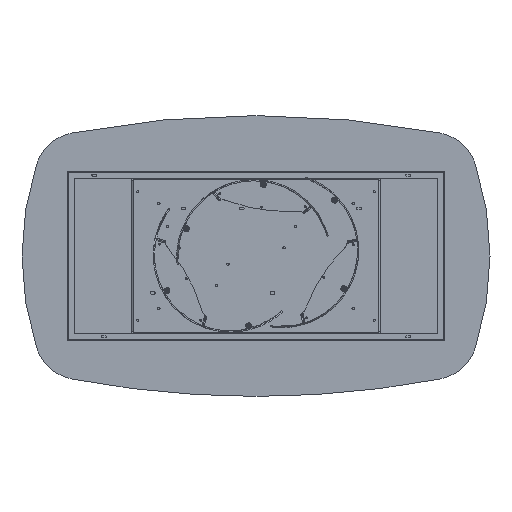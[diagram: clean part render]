
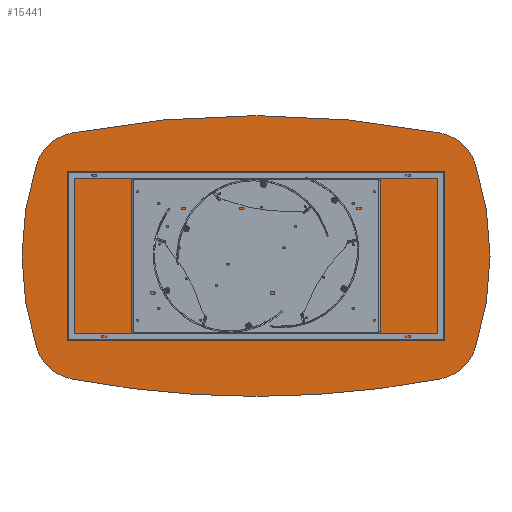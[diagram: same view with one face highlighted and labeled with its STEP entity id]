
A CAD part, front view. The second image highlights one B-rep face of the part: STEP entity #15441.
In plain terms, the highlighted planar face has unit normal (0, -1, 0).
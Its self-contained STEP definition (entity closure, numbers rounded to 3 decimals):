
#71 = DIRECTION ( 'NONE',  ( 0., 1., 0. ) ) ;
#188 = CARTESIAN_POINT ( 'NONE',  ( 0., 0., 3600. ) ) ;
#315 = VERTEX_POINT ( 'NONE', #11842 ) ;
#351 = CARTESIAN_POINT ( 'NONE',  ( -937.639, 0., -391.646 ) ) ;
#872 = DIRECTION ( 'NONE',  ( 0., 0., 1. ) ) ;
#941 = AXIS2_PLACEMENT_3D ( 'NONE', #16911, #8880, #872 ) ;
#1209 = EDGE_CURVE ( 'NONE', #21073, #4881, #2676, .T. ) ;
#1221 = FACE_OUTER_BOUND ( 'NONE', #14311, .T. ) ;
#1800 = EDGE_CURVE ( 'NONE', #5351, #4881, #7776, .T. ) ;
#2265 = ORIENTED_EDGE ( 'NONE', *, *, #2632, .F. ) ;
#2632 = EDGE_CURVE ( 'NONE', #5772, #17766, #19513, .T. ) ;
#2676 = CIRCLE ( 'NONE', #9228, 4200. ) ;
#2783 = AXIS2_PLACEMENT_3D ( 'NONE', #17017, #8777, #7149 ) ;
#2845 = CARTESIAN_POINT ( 'NONE',  ( -130.5, 0., 1800. ) ) ;
#2936 = DIRECTION ( 'NONE',  ( 0., -1., 0. ) ) ;
#3137 = AXIS2_PLACEMENT_3D ( 'NONE', #188, #71, #19384 ) ;
#3701 = DIRECTION ( 'NONE',  ( 0., 0., 1. ) ) ;
#3910 = CIRCLE ( 'NONE', #13943, 1261. ) ;
#4881 = VERTEX_POINT ( 'NONE', #20204 ) ;
#5122 = CARTESIAN_POINT ( 'NONE',  ( -784.906, 0., -526.006 ) ) ;
#5351 = VERTEX_POINT ( 'NONE', #10974 ) ;
#5436 = ORIENTED_EDGE ( 'NONE', *, *, #18332, .T. ) ;
#5541 = CIRCLE ( 'NONE', #3137, 4200. ) ;
#5706 = DIRECTION ( 'NONE',  ( 0., 1., 0. ) ) ;
#5717 = CARTESIAN_POINT ( 'NONE',  ( -747.529, 0., -329.529 ) ) ;
#5743 = CARTESIAN_POINT ( 'NONE',  ( 937.639, 0., -391.646 ) ) ;
#5772 = VERTEX_POINT ( 'NONE', #351 ) ;
#5862 = CARTESIAN_POINT ( 'NONE',  ( -937.639, 0., 391.646 ) ) ;
#5892 = VERTEX_POINT ( 'NONE', #5743 ) ;
#6501 = DIRECTION ( 'NONE',  ( 0., 1., 0. ) ) ;
#7113 = VERTEX_POINT ( 'NONE', #5122 ) ;
#7141 = EDGE_CURVE ( 'NONE', #21073, #17766, #20890, .T. ) ;
#7149 = DIRECTION ( 'NONE',  ( 0., 0., 1. ) ) ;
#7216 = CARTESIAN_POINT ( 'NONE',  ( 261., 0., 0. ) ) ;
#7694 = DIRECTION ( 'NONE',  ( 0., 0., 1. ) ) ;
#7776 = CIRCLE ( 'NONE', #12969, 200. ) ;
#7934 = CARTESIAN_POINT ( 'NONE',  ( -784.906, 0., 526.006 ) ) ;
#8029 = ORIENTED_EDGE ( 'NONE', *, *, #1209, .F. ) ;
#8582 = DIRECTION ( 'NONE',  ( 0., -1., 0. ) ) ;
#8777 = DIRECTION ( 'NONE',  ( 0., -1., 0. ) ) ;
#8880 = DIRECTION ( 'NONE',  ( 0., 1., 0. ) ) ;
#9116 = EDGE_CURVE ( 'NONE', #315, #7113, #5541, .T. ) ;
#9207 = AXIS2_PLACEMENT_3D ( 'NONE', #2845, #16269, #9641 ) ;
#9228 = AXIS2_PLACEMENT_3D ( 'NONE', #9841, #6501, #19754 ) ;
#9265 = DIRECTION ( 'NONE',  ( 0., 0., 1. ) ) ;
#9274 = DIRECTION ( 'NONE',  ( 0., -1., 0. ) ) ;
#9641 = DIRECTION ( 'NONE',  ( 0., 0., 1. ) ) ;
#9642 = ORIENTED_EDGE ( 'NONE', *, *, #12416, .F. ) ;
#9751 = PLANE ( 'NONE',  #9207 ) ;
#9841 = CARTESIAN_POINT ( 'NONE',  ( 0., 0., -3600. ) ) ;
#10137 = AXIS2_PLACEMENT_3D ( 'NONE', #7216, #5706, #9265 ) ;
#10197 = ORIENTED_EDGE ( 'NONE', *, *, #1800, .T. ) ;
#10792 = ORIENTED_EDGE ( 'NONE', *, *, #16651, .T. ) ;
#10974 = CARTESIAN_POINT ( 'NONE',  ( 937.639, 0., 391.646 ) ) ;
#11842 = CARTESIAN_POINT ( 'NONE',  ( 0., 0., -600. ) ) ;
#12092 = ORIENTED_EDGE ( 'NONE', *, *, #9116, .F. ) ;
#12322 = DIRECTION ( 'NONE',  ( 0., 0., 1. ) ) ;
#12416 = EDGE_CURVE ( 'NONE', #5351, #5892, #3910, .T. ) ;
#12969 = AXIS2_PLACEMENT_3D ( 'NONE', #21064, #2936, #7694 ) ;
#13124 = ORIENTED_EDGE ( 'NONE', *, *, #14430, .F. ) ;
#13672 = DIRECTION ( 'NONE',  ( 0., 0., 1. ) ) ;
#13943 = AXIS2_PLACEMENT_3D ( 'NONE', #20645, #15406, #13672 ) ;
#14170 = ORIENTED_EDGE ( 'NONE', *, *, #7141, .T. ) ;
#14311 = EDGE_LOOP ( 'NONE', ( #8029, #14170, #2265, #5436, #12092, #13124, #10792, #9642, #10197 ) ) ;
#14430 = EDGE_CURVE ( 'NONE', #15854, #315, #19645, .T. ) ;
#15236 = CIRCLE ( 'NONE', #18351, 200. ) ;
#15406 = DIRECTION ( 'NONE',  ( 0., 1., 0. ) ) ;
#15441 = ADVANCED_FACE ( 'NONE', ( #1221 ), #9751, .F. ) ;
#15854 = VERTEX_POINT ( 'NONE', #16464 ) ;
#16269 = DIRECTION ( 'NONE',  ( 0., 1., 0. ) ) ;
#16464 = CARTESIAN_POINT ( 'NONE',  ( 784.906, 0., -526.006 ) ) ;
#16651 = EDGE_CURVE ( 'NONE', #15854, #5892, #17301, .T. ) ;
#16911 = CARTESIAN_POINT ( 'NONE',  ( 0., 0., 3600. ) ) ;
#17017 = CARTESIAN_POINT ( 'NONE',  ( 747.529, 0., -329.529 ) ) ;
#17301 = CIRCLE ( 'NONE', #2783, 200. ) ;
#17727 = AXIS2_PLACEMENT_3D ( 'NONE', #18668, #8582, #3701 ) ;
#17766 = VERTEX_POINT ( 'NONE', #5862 ) ;
#18332 = EDGE_CURVE ( 'NONE', #5772, #7113, #15236, .T. ) ;
#18351 = AXIS2_PLACEMENT_3D ( 'NONE', #5717, #9274, #12322 ) ;
#18668 = CARTESIAN_POINT ( 'NONE',  ( -747.529, 0., 329.529 ) ) ;
#19384 = DIRECTION ( 'NONE',  ( 0., 0., 1. ) ) ;
#19513 = CIRCLE ( 'NONE', #10137, 1261. ) ;
#19645 = CIRCLE ( 'NONE', #941, 4200. ) ;
#19754 = DIRECTION ( 'NONE',  ( 0., 0., 1. ) ) ;
#20204 = CARTESIAN_POINT ( 'NONE',  ( 784.906, 0., 526.006 ) ) ;
#20645 = CARTESIAN_POINT ( 'NONE',  ( -261., 0., 0. ) ) ;
#20890 = CIRCLE ( 'NONE', #17727, 200. ) ;
#21064 = CARTESIAN_POINT ( 'NONE',  ( 747.529, 0., 329.529 ) ) ;
#21073 = VERTEX_POINT ( 'NONE', #7934 ) ;
